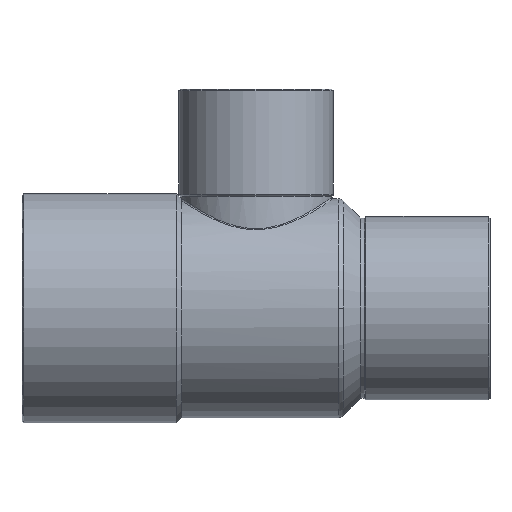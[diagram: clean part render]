
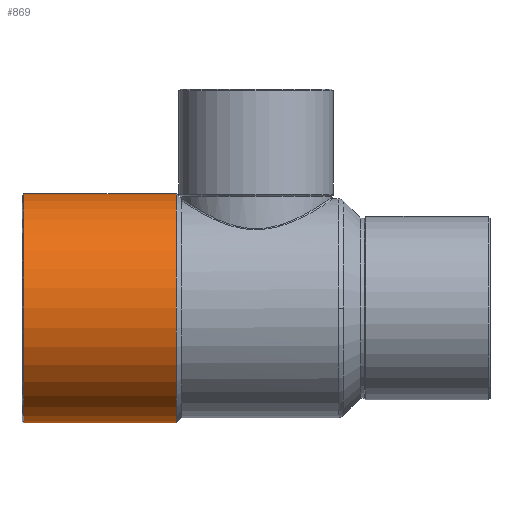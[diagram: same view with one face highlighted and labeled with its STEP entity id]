
A CAD part, top view. The second image highlights one B-rep face of the part: STEP entity #869.
In plain terms, the highlighted cylindrical face has radius 15.175 mm (diameter 30.35 mm), a partial arc.
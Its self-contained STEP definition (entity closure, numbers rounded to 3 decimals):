
#271=CARTESIAN_POINT('',(-10.544,15.175,0.0));
#272=VERTEX_POINT('',#271);
#281=CARTESIAN_POINT('',(-10.544,-15.175,0.));
#282=VERTEX_POINT('',#281);
#283=CARTESIAN_POINT('',(-10.544,0.0,0.0));
#284=DIRECTION('',(1.0,0.0,0.0));
#285=DIRECTION('',(0.0,1.0,0.0));
#286=AXIS2_PLACEMENT_3D('',#283,#284,#285);
#287=CIRCLE('',#286,15.175);
#288=EDGE_CURVE('',#272,#282,#287,.T.);
#838=CARTESIAN_POINT('',(-20.772,0.0,0.0));
#839=DIRECTION('',(1.0,0.0,0.0));
#840=DIRECTION('',(0.0,1.0,0.0));
#841=AXIS2_PLACEMENT_3D('',#838,#839,#840);
#842=CYLINDRICAL_SURFACE('',#841,15.175);
#843=CARTESIAN_POINT('',(-30.8,15.175,0.));
#844=VERTEX_POINT('',#843);
#845=CARTESIAN_POINT('',(-30.8,15.175,0.));
#846=DIRECTION('',(1.0,0.0,0.0));
#847=VECTOR('',#846,20.256);
#848=LINE('',#845,#847);
#849=EDGE_CURVE('',#844,#272,#848,.T.);
#850=ORIENTED_EDGE('',*,*,#849,.F.);
#851=CARTESIAN_POINT('',(-30.8,-15.175,0.));
#852=VERTEX_POINT('',#851);
#853=CARTESIAN_POINT('',(-30.8,0.0,0.0));
#854=DIRECTION('',(-1.0,0.0,0.0));
#855=DIRECTION('',(0.0,-1.0,0.0));
#856=AXIS2_PLACEMENT_3D('',#853,#854,#855);
#857=CIRCLE('',#856,15.175);
#858=EDGE_CURVE('',#852,#844,#857,.T.);
#859=ORIENTED_EDGE('',*,*,#858,.F.);
#860=CARTESIAN_POINT('',(-10.544,-15.175,0.));
#861=DIRECTION('',(-1.0,0.0,0.0));
#862=VECTOR('',#861,20.256);
#863=LINE('',#860,#862);
#864=EDGE_CURVE('',#282,#852,#863,.T.);
#865=ORIENTED_EDGE('',*,*,#864,.F.);
#866=ORIENTED_EDGE('',*,*,#288,.F.);
#867=EDGE_LOOP('',(#850,#859,#865,#866));
#868=FACE_OUTER_BOUND('',#867,.T.);
#869=ADVANCED_FACE('',(#868),#842,.T.);
